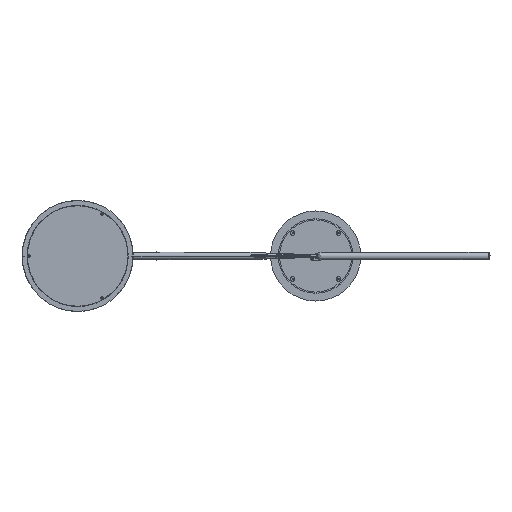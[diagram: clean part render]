
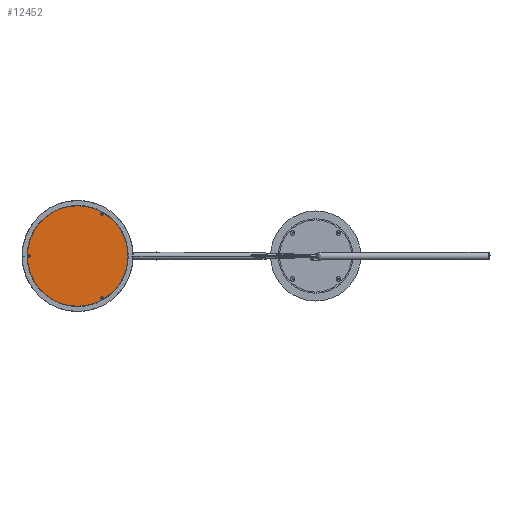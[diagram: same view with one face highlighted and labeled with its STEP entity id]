
A CAD part, front view. The second image highlights one B-rep face of the part: STEP entity #12452.
In plain terms, the highlighted planar face has unit normal (0, -1, 0).
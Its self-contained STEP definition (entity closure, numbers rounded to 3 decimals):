
#12279=CARTESIAN_POINT('',(-174.97,1360.65,0.));
#12280=DIRECTION('',(0.,1.,0.));
#12281=DIRECTION('',(0.5,0.,-0.866));
#12282=AXIS2_PLACEMENT_3D('',#12279,#12280,#12281);
#12284=CARTESIAN_POINT('',(-174.97,1360.65,0.));
#12285=DIRECTION('',(0.,1.,0.));
#12286=DIRECTION('',(-0.5,0.,0.866));
#12287=AXIS2_PLACEMENT_3D('',#12284,#12285,#12286);
#12289=CARTESIAN_POINT('',(-121.22,1360.65,-93.098));
#12290=DIRECTION('',(0.,-1.,0.));
#12291=DIRECTION('',(-0.5,0.,0.866));
#12292=AXIS2_PLACEMENT_3D('',#12289,#12290,#12291);
#12294=CARTESIAN_POINT('',(-121.22,1360.65,-93.098));
#12295=DIRECTION('',(0.,-1.,0.));
#12296=DIRECTION('',(0.5,0.,-0.866));
#12297=AXIS2_PLACEMENT_3D('',#12294,#12295,#12296);
#12299=CARTESIAN_POINT('',(-121.22,1360.65,93.098));
#12300=DIRECTION('',(0.,-1.,0.));
#12301=DIRECTION('',(-0.5,0.,-0.866));
#12302=AXIS2_PLACEMENT_3D('',#12299,#12300,#12301);
#12304=CARTESIAN_POINT('',(-121.22,1360.65,93.098));
#12305=DIRECTION('',(0.,-1.,0.));
#12306=DIRECTION('',(0.5,0.,0.866));
#12307=AXIS2_PLACEMENT_3D('',#12304,#12305,#12306);
#12309=CARTESIAN_POINT('',(-282.47,1360.65,0.));
#12310=DIRECTION('',(0.,-1.,0.));
#12311=DIRECTION('',(1.,0.,0.));
#12312=AXIS2_PLACEMENT_3D('',#12309,#12310,#12311);
#12314=CARTESIAN_POINT('',(-282.47,1360.65,0.));
#12315=DIRECTION('',(0.,-1.,0.));
#12316=DIRECTION('',(-1.,0.,0.));
#12317=AXIS2_PLACEMENT_3D('',#12314,#12315,#12316);
#12383=CARTESIAN_POINT('',(-230.72,1360.65,96.562));
#12384=CARTESIAN_POINT('',(-119.22,1360.65,-96.562));
#12385=VERTEX_POINT('',#12383);
#12386=VERTEX_POINT('',#12384);
#12403=CARTESIAN_POINT('',(-119.945,1360.65,-95.306));
#12404=CARTESIAN_POINT('',(-122.495,1360.65,-90.889));
#12405=VERTEX_POINT('',#12403);
#12406=VERTEX_POINT('',#12404);
#12407=CARTESIAN_POINT('',(-119.945,1360.65,95.306));
#12408=CARTESIAN_POINT('',(-122.495,1360.65,90.889));
#12409=VERTEX_POINT('',#12407);
#12410=VERTEX_POINT('',#12408);
#12419=CARTESIAN_POINT('',(-285.02,1360.65,0.));
#12420=CARTESIAN_POINT('',(-279.92,1360.65,0.));
#12421=VERTEX_POINT('',#12419);
#12422=VERTEX_POINT('',#12420);
#12423=CARTESIAN_POINT('',(-174.97,1360.65,0.));
#12424=DIRECTION('',(0.,-1.,0.));
#12425=DIRECTION('',(-0.5,0.,0.866));
#12426=AXIS2_PLACEMENT_3D('',#12423,#12424,#12425);
#12427=PLANE('',#12426);
#12429=ORIENTED_EDGE('',*,*,#12428,.T.);
#12431=ORIENTED_EDGE('',*,*,#12430,.T.);
#12432=EDGE_LOOP('',(#12429,#12431));
#12433=FACE_OUTER_BOUND('',#12432,.F.);
#12435=ORIENTED_EDGE('',*,*,#12434,.T.);
#12437=ORIENTED_EDGE('',*,*,#12436,.T.);
#12438=EDGE_LOOP('',(#12435,#12437));
#12439=FACE_BOUND('',#12438,.F.);
#12441=ORIENTED_EDGE('',*,*,#12440,.T.);
#12443=ORIENTED_EDGE('',*,*,#12442,.T.);
#12444=EDGE_LOOP('',(#12441,#12443));
#12445=FACE_BOUND('',#12444,.F.);
#12447=ORIENTED_EDGE('',*,*,#12446,.T.);
#12449=ORIENTED_EDGE('',*,*,#12448,.T.);
#12450=EDGE_LOOP('',(#12447,#12449));
#12451=FACE_BOUND('',#12450,.F.);
#12452=ADVANCED_FACE('',(#12433,#12439,#12445,#12451),#12427,.T.);
#12283=CIRCLE('',#12282,111.5);
#12288=CIRCLE('',#12287,111.5);
#12293=CIRCLE('',#12292,2.55);
#12298=CIRCLE('',#12297,2.55);
#12303=CIRCLE('',#12302,2.55);
#12308=CIRCLE('',#12307,2.55);
#12313=CIRCLE('',#12312,2.55);
#12318=CIRCLE('',#12317,2.55);
#12428=EDGE_CURVE('',#12386,#12385,#12283,.T.);
#12430=EDGE_CURVE('',#12385,#12386,#12288,.T.);
#12434=EDGE_CURVE('',#12406,#12405,#12293,.T.);
#12436=EDGE_CURVE('',#12405,#12406,#12298,.T.);
#12440=EDGE_CURVE('',#12410,#12409,#12303,.T.);
#12442=EDGE_CURVE('',#12409,#12410,#12308,.T.);
#12446=EDGE_CURVE('',#12422,#12421,#12313,.T.);
#12448=EDGE_CURVE('',#12421,#12422,#12318,.T.);
